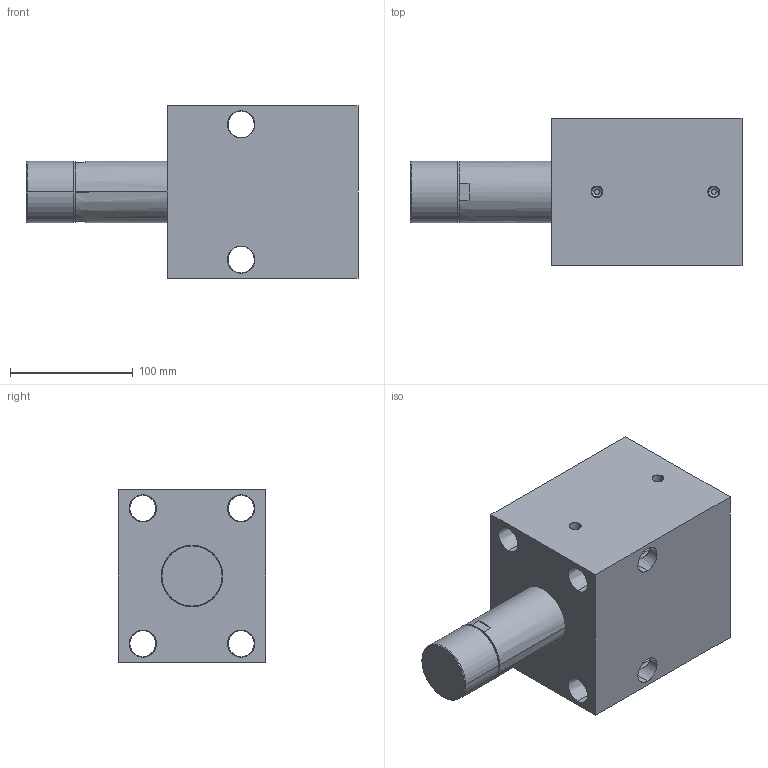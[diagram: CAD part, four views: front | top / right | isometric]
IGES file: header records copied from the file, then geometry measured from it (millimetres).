
Start section: SolidWorks IGES file using analytic representation for surfaces
Global section: file name: C:\Documents and Settings\rajib\Desktop\Rajib\BLOCK CYLINDER HYDRAULIC\0801-0806\IGES 0801-0808\0805.IGS; native system: SolidWorks 2007; preprocessor: SolidWorks 2007; author: rajib; date: 110121.163829; units: millimetre
Bounding box: 270 x 120 x 140 mm (x, y, z)
Surface area: 187173.5 mm2 (no closed solid volume)
Topology: 0 solids, 0 shells, 76 faces, 1936 edges, 1936 vertices
Faces by surface type: revolution 54, bspline 22
